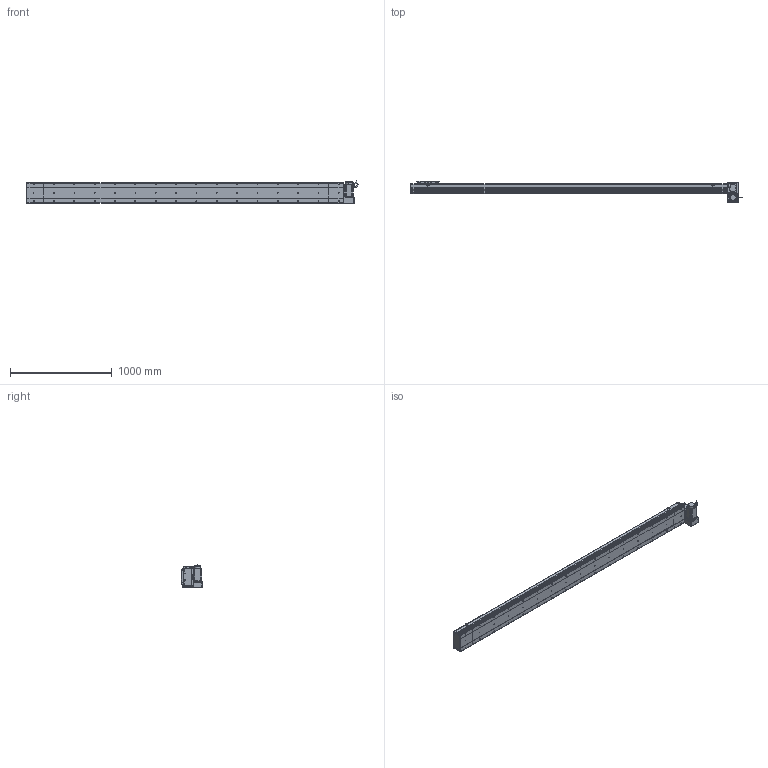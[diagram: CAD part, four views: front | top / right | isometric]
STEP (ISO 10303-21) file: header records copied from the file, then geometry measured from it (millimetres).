
FILE_DESCRIPTION (( 'STEP AP214' ), '1' );
FILE_NAME ('D20 CBH RU S2800.STEP', '2010-06-30T10:28:11', ( 'Conseil Régional Haute-Normandie' ), ( 'Conseil Régional Haute-Normandie' ), 'SwSTEP 2.0', 'SolidWorks 2010', '' );
FILE_SCHEMA (( 'AUTOMOTIVE_DESIGN' ));
Length unit declared in the file: millimetre
Products named in the file (31): Conecteur2_Default; Couvercle_Default; Tail D20_Default; Corp Tail D20_Default; Glissiere_Default; Chariot D20_Default; Support Chariot D20_Default; Couvercle S2800_Default; Corp S2800_Default; Corp D20 S2800_Default; Conecteur_Default; vis M5 L47_Default; ecrou_Default; vis M5 L30_Default; Plaque de Bout Tail D20_Default; vis M5 L15_Default; Plaque De Serrage D20_Default; D20 CBH RU S2800; Support moteur RU_Default; Plaque de Bout Head D20 RU_Default; Head RU_Default; Plaque De Serrage D20 RU_Default; Couvercle RU_Default; Corp Tail D20 RU_Default; Moteur motionking 90BLDC125A-640; Rondelle Cache D20 RU_Default; Cache Support Moteur RU_Default; codeur 90BLDC125-640; corps 90BLDC125A-640; avant 90BLDC125A-640
Assembly tree (66 placements, depth 4):
  D20 CBH RU S2800
    Tail D20_Default
      vis M5 L15_Default  x6
      Couvercle_Default
      Corp Tail D20_Default
      Plaque de Bout Tail D20_Default
      Plaque De Serrage D20_Default
    Head RU_Default
      vis M5 L15_Default  x12
      vis M5 L47_Default  x4
      vis M5 L30_Default  x4
      Plaque de Bout Head D20 RU_Default
      ecrou_Default  x4
      Rondelle Cache D20 RU_Default  x3
      Cache Support Moteur RU_Default
      Moteur motionking 90BLDC125A-640
        codeur 90BLDC125-640
        Conecteur_Default
        Conecteur2_Default
        corps 90BLDC125A-640
        avant 90BLDC125A-640
      Corp Tail D20 RU_Default
      Plaque De Serrage D20 RU_Default
      Support moteur RU_Default
      Couvercle RU_Default
    Chariot D20_Default
      Glissiere_Default
      vis M5 L15_Default  x8
      Support Chariot D20_Default
      Chariot D20_Default
    Corp D20 S2800_Default
      Couvercle S2800_Default
      Corp S2800_Default
Bounding box: 3264.45 x 209 x 229.7 mm (x, y, z)
Volume: 21977863.1 mm3; surface area: 4237016.4 mm2
Topology: 103 solids, 103 shells, 3805 faces, 9470 edges, 6154 vertices
Faces by surface type: plane 2108, bspline 806, cylinder 728, torus 91, cone 68, sphere 4
Entity records: 160366 total; most frequent: CARTESIAN_POINT 82467, ORIENTED_EDGE 15408, DIRECTION 11802, EDGE_CURVE 7704, VERTEX_POINT 5098, LINE 4960, VECTOR 4960, AXIS2_PLACEMENT_3D 3421
